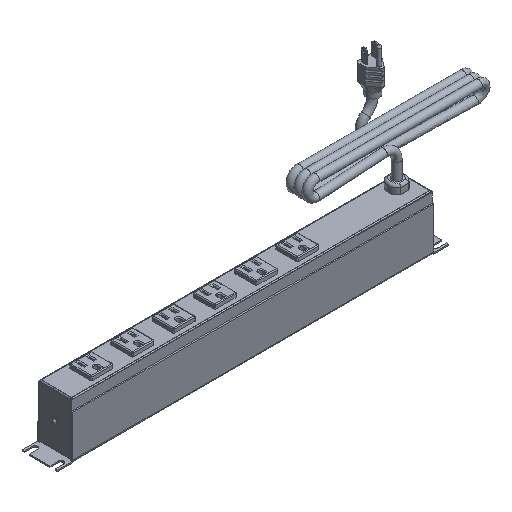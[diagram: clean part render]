
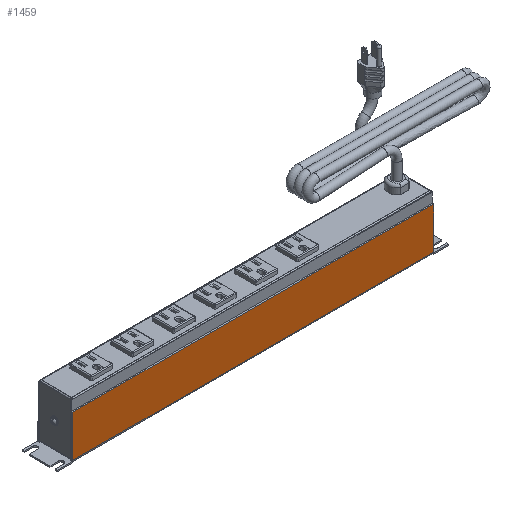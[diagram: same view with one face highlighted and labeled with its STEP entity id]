
A CAD part, isometric view. The second image highlights one B-rep face of the part: STEP entity #1459.
In plain terms, the highlighted planar face has unit normal (0, -1, 0).
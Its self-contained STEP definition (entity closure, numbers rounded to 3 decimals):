
#1250=CARTESIAN_POINT('',(-222.25,-21.819,2.588));
#1251=VERTEX_POINT('',#1250);
#1252=CARTESIAN_POINT('',(222.25,-21.819,2.588));
#1253=VERTEX_POINT('',#1252);
#1254=CARTESIAN_POINT('',(-222.25,-21.819,2.588));
#1255=DIRECTION('',(1.0,0.0,0.0));
#1256=VECTOR('',#1255,444.5);
#1257=LINE('',#1254,#1256);
#1258=EDGE_CURVE('',#1251,#1253,#1257,.T.);
#1308=CARTESIAN_POINT('',(222.25,-21.819,53.975));
#1309=VERTEX_POINT('',#1308);
#1316=CARTESIAN_POINT('',(222.25,-21.819,53.975));
#1317=DIRECTION('',(0.0,0.0,-1.0));
#1318=VECTOR('',#1317,51.387);
#1319=LINE('',#1316,#1318);
#1320=EDGE_CURVE('',#1309,#1253,#1319,.T.);
#1413=CARTESIAN_POINT('',(-222.25,-21.819,53.975));
#1414=VERTEX_POINT('',#1413);
#1415=CARTESIAN_POINT('',(-222.25,-21.819,2.588));
#1416=DIRECTION('',(0.0,0.0,1.0));
#1417=VECTOR('',#1416,51.388);
#1418=LINE('',#1415,#1417);
#1419=EDGE_CURVE('',#1251,#1414,#1418,.T.);
#1436=CARTESIAN_POINT('',(-222.25,-21.819,53.975));
#1437=DIRECTION('',(1.0,0.0,0.0));
#1438=VECTOR('',#1437,444.5);
#1439=LINE('',#1436,#1438);
#1440=EDGE_CURVE('',#1414,#1309,#1439,.T.);
#1448=CARTESIAN_POINT('',(0.,-21.819,26.947));
#1449=DIRECTION('',(0.0,1.0,0.0));
#1450=DIRECTION('',(1.0,0.0,0.0));
#1451=AXIS2_PLACEMENT_3D('',#1448,#1449,#1450);
#1452=PLANE('',#1451);
#1453=ORIENTED_EDGE('',*,*,#1258,.T.);
#1454=ORIENTED_EDGE('',*,*,#1320,.F.);
#1455=ORIENTED_EDGE('',*,*,#1440,.F.);
#1456=ORIENTED_EDGE('',*,*,#1419,.F.);
#1457=EDGE_LOOP('',(#1453,#1454,#1455,#1456));
#1458=FACE_OUTER_BOUND('',#1457,.T.);
#1459=ADVANCED_FACE('',(#1458),#1452,.F.);
